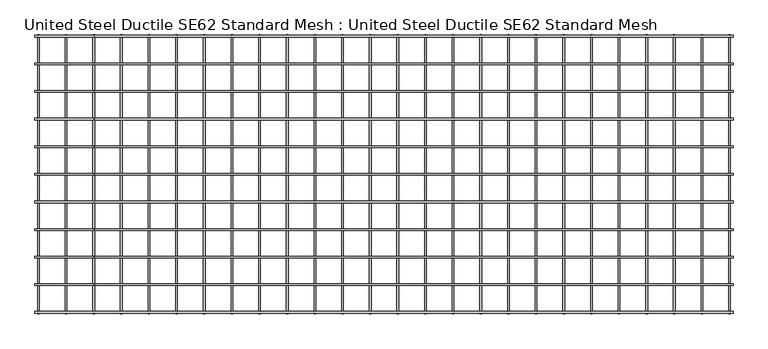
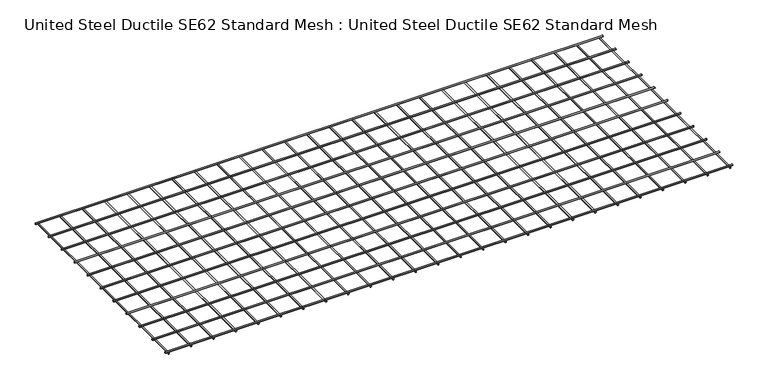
"""IFC4 building model written with IfcOpenShell, lengths in millimetres: proxy geometry, United Steel Ductile SE62 Standard Mesh : United Steel Ductile SE62 Standard Mesh."""

from ifc_helpers import new_model, si_unit, point, frame, frame_2d, origin, place, context, project, spatial, circle_curve, trimmed, segment, composite_curve, outline, extrude, source, transform, mapped, element, save


def united_steel_ductile_se62_standard_mesh_united_steel_ductile_b61f7197(model_context):
    return source(origin(), model_context, "Body", "SweptSolid", [
        extrude(outline(composite_curve([segment(trimmed(circle_curve(frame_2d((-210.0, 18.350398)), 6.1), [point((-216.1, 18.350398))], [point((-203.9, 18.350398))], False, "CARTESIAN"), True, "CONTINUOUS"), segment(trimmed(circle_curve(frame_2d((-210.0, 18.350398)), 6.1), [point((-203.9, 18.350398))], [point((-216.1, 18.350398))], False, "CARTESIAN"), True, "CONTINUOUS")], self_intersect=False)), frame((-5050.0, 0.0, 0.0), z_axis=(1.0, 0.0, 0.0), x_axis=(0.0, 1.0, 0.0)), (0.0, 0.0, 1.0), 5050.0),
        extrude(outline(composite_curve([segment(trimmed(circle_curve(frame_2d((-410.0, 18.350398)), 6.1), [point((-416.1, 18.350398))], [point((-403.9, 18.350398))], False, "CARTESIAN"), True, "CONTINUOUS"), segment(trimmed(circle_curve(frame_2d((-410.0, 18.350398)), 6.1), [point((-403.9, 18.350398))], [point((-416.1, 18.350398))], False, "CARTESIAN"), True, "CONTINUOUS")], self_intersect=False)), frame((-5050.0, 0.0, 0.0), z_axis=(1.0, 0.0, 0.0), x_axis=(0.0, 1.0, 0.0)), (0.0, 0.0, 1.0), 5050.0),
        extrude(outline(composite_curve([segment(trimmed(circle_curve(frame_2d((-610.0, 18.350398)), 6.1), [point((-616.1, 18.350398))], [point((-603.9, 18.350398))], False, "CARTESIAN"), True, "CONTINUOUS"), segment(trimmed(circle_curve(frame_2d((-610.0, 18.350398)), 6.1), [point((-603.9, 18.350398))], [point((-616.1, 18.350398))], False, "CARTESIAN"), True, "CONTINUOUS")], self_intersect=False)), frame((-5050.0, 0.0, 0.0), z_axis=(1.0, 0.0, 0.0), x_axis=(0.0, 1.0, 0.0)), (0.0, 0.0, 1.0), 5050.0),
        extrude(outline(composite_curve([segment(trimmed(circle_curve(frame_2d((-810.0, 18.350398)), 6.1), [point((-816.1, 18.350398))], [point((-803.9, 18.350398))], False, "CARTESIAN"), True, "CONTINUOUS"), segment(trimmed(circle_curve(frame_2d((-810.0, 18.350398)), 6.1), [point((-803.9, 18.350398))], [point((-816.1, 18.350398))], False, "CARTESIAN"), True, "CONTINUOUS")], self_intersect=False)), frame((-5050.0, 0.0, 0.0), z_axis=(1.0, 0.0, 0.0), x_axis=(0.0, 1.0, 0.0)), (0.0, 0.0, 1.0), 5050.0),
        extrude(outline(composite_curve([segment(trimmed(circle_curve(frame_2d((-1010.0, 18.350398)), 6.1), [point((-1016.1, 18.350398))], [point((-1003.9, 18.350398))], False, "CARTESIAN"), True, "CONTINUOUS"), segment(trimmed(circle_curve(frame_2d((-1010.0, 18.350398)), 6.1), [point((-1003.9, 18.350398))], [point((-1016.1, 18.350398))], False, "CARTESIAN"), True, "CONTINUOUS")], self_intersect=False)), frame((-5050.0, 0.0, 0.0), z_axis=(1.0, 0.0, 0.0), x_axis=(0.0, 1.0, 0.0)), (0.0, 0.0, 1.0), 5050.0),
        extrude(outline(composite_curve([segment(trimmed(circle_curve(frame_2d((-1210.0, 18.350398)), 6.1), [point((-1216.1, 18.350398))], [point((-1203.9, 18.350398))], False, "CARTESIAN"), True, "CONTINUOUS"), segment(trimmed(circle_curve(frame_2d((-1210.0, 18.350398)), 6.1), [point((-1203.9, 18.350398))], [point((-1216.1, 18.350398))], False, "CARTESIAN"), True, "CONTINUOUS")], self_intersect=False)), frame((-5050.0, 0.0, 0.0), z_axis=(1.0, 0.0, 0.0), x_axis=(0.0, 1.0, 0.0)), (0.0, 0.0, 1.0), 5050.0),
        extrude(outline(composite_curve([segment(trimmed(circle_curve(frame_2d((-1410.0, 18.350398)), 6.1), [point((-1416.1, 18.350398))], [point((-1403.9, 18.350398))], False, "CARTESIAN"), True, "CONTINUOUS"), segment(trimmed(circle_curve(frame_2d((-1410.0, 18.350398)), 6.1), [point((-1403.9, 18.350398))], [point((-1416.1, 18.350398))], False, "CARTESIAN"), True, "CONTINUOUS")], self_intersect=False)), frame((-5050.0, 0.0, 0.0), z_axis=(1.0, 0.0, 0.0), x_axis=(0.0, 1.0, 0.0)), (0.0, 0.0, 1.0), 5050.0),
        extrude(outline(composite_curve([segment(trimmed(circle_curve(frame_2d((-1610.0, 18.350398)), 6.1), [point((-1616.1, 18.350398))], [point((-1603.9, 18.350398))], False, "CARTESIAN"), True, "CONTINUOUS"), segment(trimmed(circle_curve(frame_2d((-1610.0, 18.350398)), 6.1), [point((-1603.9, 18.350398))], [point((-1616.1, 18.350398))], False, "CARTESIAN"), True, "CONTINUOUS")], self_intersect=False)), frame((-5050.0, 0.0, 0.0), z_axis=(1.0, 0.0, 0.0), x_axis=(0.0, 1.0, 0.0)), (0.0, 0.0, 1.0), 5050.0),
        extrude(outline(composite_curve([segment(trimmed(circle_curve(frame_2d((-1810.0, 18.350398)), 6.1), [point((-1816.1, 18.350398))], [point((-1803.9, 18.350398))], False, "CARTESIAN"), True, "CONTINUOUS"), segment(trimmed(circle_curve(frame_2d((-1810.0, 18.350398)), 6.1), [point((-1803.9, 18.350398))], [point((-1816.1, 18.350398))], False, "CARTESIAN"), True, "CONTINUOUS")], self_intersect=False)), frame((-5050.0, 0.0, 0.0), z_axis=(1.0, 0.0, 0.0), x_axis=(0.0, 1.0, 0.0)), (0.0, 0.0, 1.0), 5050.0),
        extrude(outline(composite_curve([segment(trimmed(circle_curve(frame_2d((-10.0, 18.350398)), 6.1), [point((-16.1, 18.350398))], [point((-3.9, 18.350398))], False, "CARTESIAN"), True, "CONTINUOUS"), segment(trimmed(circle_curve(frame_2d((-10.0, 18.350398)), 6.1), [point((-3.9, 18.350398))], [point((-16.1, 18.350398))], False, "CARTESIAN"), True, "CONTINUOUS")], self_intersect=False)), frame((-5050.0, 0.0, 0.0), z_axis=(1.0, 0.0, 0.0), x_axis=(0.0, 1.0, 0.0)), (0.0, 0.0, 1.0), 5050.0),
        extrude(outline(composite_curve([segment(trimmed(circle_curve(frame_2d((-2010.0, 18.350398)), 6.1), [point((-2016.1, 18.350398))], [point((-2003.9, 18.350398))], False, "CARTESIAN"), True, "CONTINUOUS"), segment(trimmed(circle_curve(frame_2d((-2010.0, 18.350398)), 6.1), [point((-2003.9, 18.350398))], [point((-2016.1, 18.350398))], False, "CARTESIAN"), True, "CONTINUOUS")], self_intersect=False)), frame((-5050.0, 0.0, 0.0), z_axis=(1.0, 0.0, 0.0), x_axis=(0.0, 1.0, 0.0)), (0.0, 0.0, 1.0), 5050.0),
        extrude(outline(composite_curve([segment(trimmed(circle_curve(frame_2d((6.1434635, -4825.0)), 6.1), [point((6.1434635, -4831.1))], [point((6.1434635, -4818.9))], False, "CARTESIAN"), True, "CONTINUOUS"), segment(trimmed(circle_curve(frame_2d((6.1434635, -4825.0)), 6.1), [point((6.1434635, -4818.9))], [point((6.1434635, -4831.1))], False, "CARTESIAN"), True, "CONTINUOUS")], self_intersect=False)), frame((0.0, -2020.0, 0.0), z_axis=(0.0, 1.0, 0.0), x_axis=(0.0, 0.0, 1.0)), (0.0, 0.0, 1.0), 2020.0),
        extrude(outline(composite_curve([segment(trimmed(circle_curve(frame_2d((6.1434635, -4625.0)), 6.1), [point((6.1434635, -4631.1))], [point((6.1434635, -4618.9))], False, "CARTESIAN"), True, "CONTINUOUS"), segment(trimmed(circle_curve(frame_2d((6.1434635, -4625.0)), 6.1), [point((6.1434635, -4618.9))], [point((6.1434635, -4631.1))], False, "CARTESIAN"), True, "CONTINUOUS")], self_intersect=False)), frame((0.0, -2020.0, 0.0), z_axis=(0.0, 1.0, 0.0), x_axis=(0.0, 0.0, 1.0)), (0.0, 0.0, 1.0), 2020.0),
        extrude(outline(composite_curve([segment(trimmed(circle_curve(frame_2d((6.1434635, -4425.0)), 6.1), [point((6.1434635, -4431.1))], [point((6.1434635, -4418.9))], False, "CARTESIAN"), True, "CONTINUOUS"), segment(trimmed(circle_curve(frame_2d((6.1434635, -4425.0)), 6.1), [point((6.1434635, -4418.9))], [point((6.1434635, -4431.1))], False, "CARTESIAN"), True, "CONTINUOUS")], self_intersect=False)), frame((0.0, -2020.0, 0.0), z_axis=(0.0, 1.0, 0.0), x_axis=(0.0, 0.0, 1.0)), (0.0, 0.0, 1.0), 2020.0),
        extrude(outline(composite_curve([segment(trimmed(circle_curve(frame_2d((6.1434635, -4225.0)), 6.1), [point((6.1434635, -4231.1))], [point((6.1434635, -4218.9))], False, "CARTESIAN"), True, "CONTINUOUS"), segment(trimmed(circle_curve(frame_2d((6.1434635, -4225.0)), 6.1), [point((6.1434635, -4218.9))], [point((6.1434635, -4231.1))], False, "CARTESIAN"), True, "CONTINUOUS")], self_intersect=False)), frame((0.0, -2020.0, 0.0), z_axis=(0.0, 1.0, 0.0), x_axis=(0.0, 0.0, 1.0)), (0.0, 0.0, 1.0), 2020.0),
        extrude(outline(composite_curve([segment(trimmed(circle_curve(frame_2d((6.1434635, -4025.0)), 6.1), [point((6.1434635, -4031.1))], [point((6.1434635, -4018.9))], False, "CARTESIAN"), True, "CONTINUOUS"), segment(trimmed(circle_curve(frame_2d((6.1434635, -4025.0)), 6.1), [point((6.1434635, -4018.9))], [point((6.1434635, -4031.1))], False, "CARTESIAN"), True, "CONTINUOUS")], self_intersect=False)), frame((0.0, -2020.0, 0.0), z_axis=(0.0, 1.0, 0.0), x_axis=(0.0, 0.0, 1.0)), (0.0, 0.0, 1.0), 2020.0),
        extrude(outline(composite_curve([segment(trimmed(circle_curve(frame_2d((6.1434635, -3825.0)), 6.1), [point((6.1434635, -3831.1))], [point((6.1434635, -3818.9))], False, "CARTESIAN"), True, "CONTINUOUS"), segment(trimmed(circle_curve(frame_2d((6.1434635, -3825.0)), 6.1), [point((6.1434635, -3818.9))], [point((6.1434635, -3831.1))], False, "CARTESIAN"), True, "CONTINUOUS")], self_intersect=False)), frame((0.0, -2020.0, 0.0), z_axis=(0.0, 1.0, 0.0), x_axis=(0.0, 0.0, 1.0)), (0.0, 0.0, 1.0), 2020.0),
        extrude(outline(composite_curve([segment(trimmed(circle_curve(frame_2d((6.1434635, -3625.0)), 6.1), [point((6.1434635, -3631.1))], [point((6.1434635, -3618.9))], False, "CARTESIAN"), True, "CONTINUOUS"), segment(trimmed(circle_curve(frame_2d((6.1434635, -3625.0)), 6.1), [point((6.1434635, -3618.9))], [point((6.1434635, -3631.1))], False, "CARTESIAN"), True, "CONTINUOUS")], self_intersect=False)), frame((0.0, -2020.0, 0.0), z_axis=(0.0, 1.0, 0.0), x_axis=(0.0, 0.0, 1.0)), (0.0, 0.0, 1.0), 2020.0),
        extrude(outline(composite_curve([segment(trimmed(circle_curve(frame_2d((6.1434635, -3425.0)), 6.1), [point((6.1434635, -3431.1))], [point((6.1434635, -3418.9))], False, "CARTESIAN"), True, "CONTINUOUS"), segment(trimmed(circle_curve(frame_2d((6.1434635, -3425.0)), 6.1), [point((6.1434635, -3418.9))], [point((6.1434635, -3431.1))], False, "CARTESIAN"), True, "CONTINUOUS")], self_intersect=False)), frame((0.0, -2020.0, 0.0), z_axis=(0.0, 1.0, 0.0), x_axis=(0.0, 0.0, 1.0)), (0.0, 0.0, 1.0), 2020.0),
        extrude(outline(composite_curve([segment(trimmed(circle_curve(frame_2d((6.1434635, -3225.0)), 6.1), [point((6.1434635, -3231.1))], [point((6.1434635, -3218.9))], False, "CARTESIAN"), True, "CONTINUOUS"), segment(trimmed(circle_curve(frame_2d((6.1434635, -3225.0)), 6.1), [point((6.1434635, -3218.9))], [point((6.1434635, -3231.1))], False, "CARTESIAN"), True, "CONTINUOUS")], self_intersect=False)), frame((0.0, -2020.0, 0.0), z_axis=(0.0, 1.0, 0.0), x_axis=(0.0, 0.0, 1.0)), (0.0, 0.0, 1.0), 2020.0),
        extrude(outline(composite_curve([segment(trimmed(circle_curve(frame_2d((6.1434635, -3025.0)), 6.1), [point((6.1434635, -3031.1))], [point((6.1434635, -3018.9))], False, "CARTESIAN"), True, "CONTINUOUS"), segment(trimmed(circle_curve(frame_2d((6.1434635, -3025.0)), 6.1), [point((6.1434635, -3018.9))], [point((6.1434635, -3031.1))], False, "CARTESIAN"), True, "CONTINUOUS")], self_intersect=False)), frame((0.0, -2020.0, 0.0), z_axis=(0.0, 1.0, 0.0), x_axis=(0.0, 0.0, 1.0)), (0.0, 0.0, 1.0), 2020.0),
        extrude(outline(composite_curve([segment(trimmed(circle_curve(frame_2d((6.1434635, -2825.0)), 6.1), [point((6.1434635, -2831.1))], [point((6.1434635, -2818.9))], False, "CARTESIAN"), True, "CONTINUOUS"), segment(trimmed(circle_curve(frame_2d((6.1434635, -2825.0)), 6.1), [point((6.1434635, -2818.9))], [point((6.1434635, -2831.1))], False, "CARTESIAN"), True, "CONTINUOUS")], self_intersect=False)), frame((0.0, -2020.0, 0.0), z_axis=(0.0, 1.0, 0.0), x_axis=(0.0, 0.0, 1.0)), (0.0, 0.0, 1.0), 2020.0),
        extrude(outline(composite_curve([segment(trimmed(circle_curve(frame_2d((6.1434635, -2625.0)), 6.1), [point((6.1434635, -2631.1))], [point((6.1434635, -2618.9))], False, "CARTESIAN"), True, "CONTINUOUS"), segment(trimmed(circle_curve(frame_2d((6.1434635, -2625.0)), 6.1), [point((6.1434635, -2618.9))], [point((6.1434635, -2631.1))], False, "CARTESIAN"), True, "CONTINUOUS")], self_intersect=False)), frame((0.0, -2020.0, 0.0), z_axis=(0.0, 1.0, 0.0), x_axis=(0.0, 0.0, 1.0)), (0.0, 0.0, 1.0), 2020.0),
        extrude(outline(composite_curve([segment(trimmed(circle_curve(frame_2d((6.1434635, -2425.0)), 6.1), [point((6.1434635, -2431.1))], [point((6.1434635, -2418.9))], False, "CARTESIAN"), True, "CONTINUOUS"), segment(trimmed(circle_curve(frame_2d((6.1434635, -2425.0)), 6.1), [point((6.1434635, -2418.9))], [point((6.1434635, -2431.1))], False, "CARTESIAN"), True, "CONTINUOUS")], self_intersect=False)), frame((0.0, -2020.0, 0.0), z_axis=(0.0, 1.0, 0.0), x_axis=(0.0, 0.0, 1.0)), (0.0, 0.0, 1.0), 2020.0),
        extrude(outline(composite_curve([segment(trimmed(circle_curve(frame_2d((6.1434635, -2225.0)), 6.1), [point((6.1434635, -2231.1))], [point((6.1434635, -2218.9))], False, "CARTESIAN"), True, "CONTINUOUS"), segment(trimmed(circle_curve(frame_2d((6.1434635, -2225.0)), 6.1), [point((6.1434635, -2218.9))], [point((6.1434635, -2231.1))], False, "CARTESIAN"), True, "CONTINUOUS")], self_intersect=False)), frame((0.0, -2020.0, 0.0), z_axis=(0.0, 1.0, 0.0), x_axis=(0.0, 0.0, 1.0)), (0.0, 0.0, 1.0), 2020.0),
        extrude(outline(composite_curve([segment(trimmed(circle_curve(frame_2d((6.1434635, -2025.0)), 6.1), [point((6.1434635, -2031.1))], [point((6.1434635, -2018.9))], False, "CARTESIAN"), True, "CONTINUOUS"), segment(trimmed(circle_curve(frame_2d((6.1434635, -2025.0)), 6.1), [point((6.1434635, -2018.9))], [point((6.1434635, -2031.1))], False, "CARTESIAN"), True, "CONTINUOUS")], self_intersect=False)), frame((0.0, -2020.0, 0.0), z_axis=(0.0, 1.0, 0.0), x_axis=(0.0, 0.0, 1.0)), (0.0, 0.0, 1.0), 2020.0),
        extrude(outline(composite_curve([segment(trimmed(circle_curve(frame_2d((6.1434635, -1825.0)), 6.1), [point((6.1434635, -1831.1))], [point((6.1434635, -1818.9))], False, "CARTESIAN"), True, "CONTINUOUS"), segment(trimmed(circle_curve(frame_2d((6.1434635, -1825.0)), 6.1), [point((6.1434635, -1818.9))], [point((6.1434635, -1831.1))], False, "CARTESIAN"), True, "CONTINUOUS")], self_intersect=False)), frame((0.0, -2020.0, 0.0), z_axis=(0.0, 1.0, 0.0), x_axis=(0.0, 0.0, 1.0)), (0.0, 0.0, 1.0), 2020.0),
        extrude(outline(composite_curve([segment(trimmed(circle_curve(frame_2d((6.1434635, -1625.0)), 6.1), [point((6.1434635, -1631.1))], [point((6.1434635, -1618.9))], False, "CARTESIAN"), True, "CONTINUOUS"), segment(trimmed(circle_curve(frame_2d((6.1434635, -1625.0)), 6.1), [point((6.1434635, -1618.9))], [point((6.1434635, -1631.1))], False, "CARTESIAN"), True, "CONTINUOUS")], self_intersect=False)), frame((0.0, -2020.0, 0.0), z_axis=(0.0, 1.0, 0.0), x_axis=(0.0, 0.0, 1.0)), (0.0, 0.0, 1.0), 2020.0),
        extrude(outline(composite_curve([segment(trimmed(circle_curve(frame_2d((6.1434635, -1425.0)), 6.1), [point((6.1434635, -1431.1))], [point((6.1434635, -1418.9))], False, "CARTESIAN"), True, "CONTINUOUS"), segment(trimmed(circle_curve(frame_2d((6.1434635, -1425.0)), 6.1), [point((6.1434635, -1418.9))], [point((6.1434635, -1431.1))], False, "CARTESIAN"), True, "CONTINUOUS")], self_intersect=False)), frame((0.0, -2020.0, 0.0), z_axis=(0.0, 1.0, 0.0), x_axis=(0.0, 0.0, 1.0)), (0.0, 0.0, 1.0), 2020.0),
        extrude(outline(composite_curve([segment(trimmed(circle_curve(frame_2d((6.1434635, -1225.0)), 6.1), [point((6.1434635, -1231.1))], [point((6.1434635, -1218.9))], False, "CARTESIAN"), True, "CONTINUOUS"), segment(trimmed(circle_curve(frame_2d((6.1434635, -1225.0)), 6.1), [point((6.1434635, -1218.9))], [point((6.1434635, -1231.1))], False, "CARTESIAN"), True, "CONTINUOUS")], self_intersect=False)), frame((0.0, -2020.0, 0.0), z_axis=(0.0, 1.0, 0.0), x_axis=(0.0, 0.0, 1.0)), (0.0, 0.0, 1.0), 2020.0),
        extrude(outline(composite_curve([segment(trimmed(circle_curve(frame_2d((6.1434635, -1025.0)), 6.1), [point((6.1434635, -1031.1))], [point((6.1434635, -1018.9))], False, "CARTESIAN"), True, "CONTINUOUS"), segment(trimmed(circle_curve(frame_2d((6.1434635, -1025.0)), 6.1), [point((6.1434635, -1018.9))], [point((6.1434635, -1031.1))], False, "CARTESIAN"), True, "CONTINUOUS")], self_intersect=False)), frame((0.0, -2020.0, 0.0), z_axis=(0.0, 1.0, 0.0), x_axis=(0.0, 0.0, 1.0)), (0.0, 0.0, 1.0), 2020.0),
        extrude(outline(composite_curve([segment(trimmed(circle_curve(frame_2d((6.1434635, -825.0)), 6.1), [point((6.1434635, -831.1))], [point((6.1434635, -818.9))], False, "CARTESIAN"), True, "CONTINUOUS"), segment(trimmed(circle_curve(frame_2d((6.1434635, -825.0)), 6.1), [point((6.1434635, -818.9))], [point((6.1434635, -831.1))], False, "CARTESIAN"), True, "CONTINUOUS")], self_intersect=False)), frame((0.0, -2020.0, 0.0), z_axis=(0.0, 1.0, 0.0), x_axis=(0.0, 0.0, 1.0)), (0.0, 0.0, 1.0), 2020.0),
        extrude(outline(composite_curve([segment(trimmed(circle_curve(frame_2d((6.1434635, -625.0)), 6.1), [point((6.1434635, -631.1))], [point((6.1434635, -618.9))], False, "CARTESIAN"), True, "CONTINUOUS"), segment(trimmed(circle_curve(frame_2d((6.1434635, -625.0)), 6.1), [point((6.1434635, -618.9))], [point((6.1434635, -631.1))], False, "CARTESIAN"), True, "CONTINUOUS")], self_intersect=False)), frame((0.0, -2020.0, 0.0), z_axis=(0.0, 1.0, 0.0), x_axis=(0.0, 0.0, 1.0)), (0.0, 0.0, 1.0), 2020.0),
        extrude(outline(composite_curve([segment(trimmed(circle_curve(frame_2d((6.1434635, -425.0)), 6.1), [point((6.1434635, -431.1))], [point((6.1434635, -418.9))], False, "CARTESIAN"), True, "CONTINUOUS"), segment(trimmed(circle_curve(frame_2d((6.1434635, -425.0)), 6.1), [point((6.1434635, -418.9))], [point((6.1434635, -431.1))], False, "CARTESIAN"), True, "CONTINUOUS")], self_intersect=False)), frame((0.0, -2020.0, 0.0), z_axis=(0.0, 1.0, 0.0), x_axis=(0.0, 0.0, 1.0)), (0.0, 0.0, 1.0), 2020.0),
        extrude(outline(composite_curve([segment(trimmed(circle_curve(frame_2d((6.1434635, -225.0)), 6.1), [point((6.1434635, -231.1))], [point((6.1434635, -218.9))], False, "CARTESIAN"), True, "CONTINUOUS"), segment(trimmed(circle_curve(frame_2d((6.1434635, -225.0)), 6.1), [point((6.1434635, -218.9))], [point((6.1434635, -231.1))], False, "CARTESIAN"), True, "CONTINUOUS")], self_intersect=False)), frame((0.0, -2020.0, 0.0), z_axis=(0.0, 1.0, 0.0), x_axis=(0.0, 0.0, 1.0)), (0.0, 0.0, 1.0), 2020.0),
        extrude(outline(composite_curve([segment(trimmed(circle_curve(frame_2d((6.1434635, -5025.0)), 6.1), [point((6.1434635, -5031.1))], [point((6.1434635, -5018.9))], False, "CARTESIAN"), True, "CONTINUOUS"), segment(trimmed(circle_curve(frame_2d((6.1434635, -5025.0)), 6.1), [point((6.1434635, -5018.9))], [point((6.1434635, -5031.1))], False, "CARTESIAN"), True, "CONTINUOUS")], self_intersect=False)), frame((0.0, -2020.0, 0.0), z_axis=(0.0, 1.0, 0.0), x_axis=(0.0, 0.0, 1.0)), (0.0, 0.0, 1.0), 2020.0),
        extrude(outline(composite_curve([segment(trimmed(circle_curve(frame_2d((6.1434635, -25.0)), 6.1), [point((6.1434635, -31.1))], [point((6.1434635, -18.9))], False, "CARTESIAN"), True, "CONTINUOUS"), segment(trimmed(circle_curve(frame_2d((6.1434635, -25.0)), 6.1), [point((6.1434635, -18.9))], [point((6.1434635, -31.1))], False, "CARTESIAN"), True, "CONTINUOUS")], self_intersect=False)), frame((0.0, -2020.0, 0.0), z_axis=(0.0, 1.0, 0.0), x_axis=(0.0, 0.0, 1.0)), (0.0, 0.0, 1.0), 2020.0),
    ])


if __name__ == "__main__":
    model = new_model("IFC4")
    model_context = context("Model", 3, world=origin())
    ifc_project = project(units=[si_unit("LENGTHUNIT", "METRE", prefix="MILLI")], contexts=[model_context])
    site = spatial("IfcSite", under=ifc_project)
    building = spatial("IfcBuilding", under=site)
    placement = place(None, origin())
    united_steel_ductile_se62_standard_mesh_united_steel_ductile_shape = united_steel_ductile_se62_standard_mesh_united_steel_ductile_b61f7197(model_context)
    element("IfcBuildingElementProxy", 1, Name="United Steel Ductile SE62 Standard Mesh : United Steel Ductile SE62 Standard Mesh", ObjectType="United Steel Ductile SE62 Standard Mesh : United Steel Ductile SE62 Standard Mesh", at=placement, inside=building, context=model_context, shape_type="MappedRepresentation", body=[
        mapped(united_steel_ductile_se62_standard_mesh_united_steel_ductile_shape, transform((0.0, 0.0, 0.0), x_axis=(1.0, 0.0, 0.0), y_axis=(0.0, 1.0, 0.0), z_axis=(0.0, 0.0, 1.0))),
    ])
    save(model, "model.ifc")
